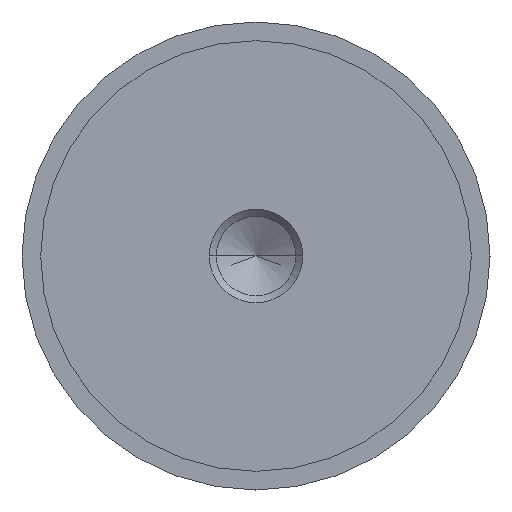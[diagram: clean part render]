
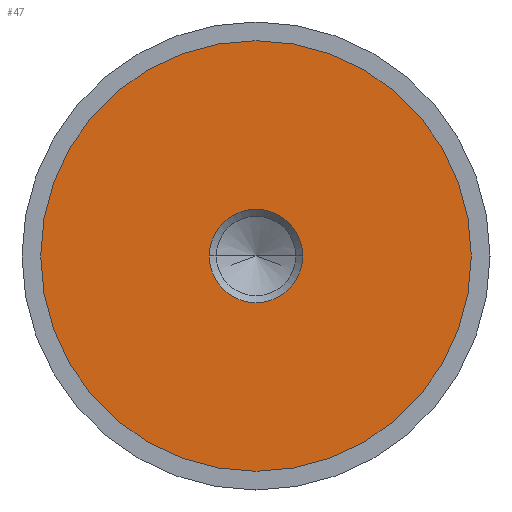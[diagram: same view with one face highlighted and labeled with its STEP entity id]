
A CAD part, left-side view. The second image highlights one B-rep face of the part: STEP entity #47.
In plain terms, the highlighted planar face has unit normal (-1, 0, 0).
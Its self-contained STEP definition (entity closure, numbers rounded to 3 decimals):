
#29 = CIRCLE ( 'NONE', #90, 4.99 ) ;
#30 = FACE_BOUND ( 'NONE', #659, .T. ) ;
#31 = EDGE_CURVE ( 'NONE', #606, #143, #29, .T. ) ;
#47 = ADVANCED_FACE ( 'NONE', ( #30, #581 ), #527, .F. ) ;
#82 = AXIS2_PLACEMENT_3D ( 'NONE', #329, #572, #452 ) ;
#83 = CARTESIAN_POINT ( 'NONE',  ( -9.99, 0., 0. ) ) ;
#90 = AXIS2_PLACEMENT_3D ( 'NONE', #83, #398, #283 ) ;
#97 = CIRCLE ( 'NONE', #220, 23. ) ;
#135 = CARTESIAN_POINT ( 'NONE',  ( -9.99, 0., 0. ) ) ;
#136 = CIRCLE ( 'NONE', #522, 23. ) ;
#143 = VERTEX_POINT ( 'NONE', #303 ) ;
#156 = DIRECTION ( 'NONE',  ( 1., 0., 0. ) ) ;
#184 = ORIENTED_EDGE ( 'NONE', *, *, #565, .T. ) ;
#202 = CARTESIAN_POINT ( 'NONE',  ( -9.99, 0., -23. ) ) ;
#220 = AXIS2_PLACEMENT_3D ( 'NONE', #135, #333, #326 ) ;
#225 = CARTESIAN_POINT ( 'NONE',  ( -9.99, 23., 0. ) ) ;
#229 = EDGE_CURVE ( 'NONE', #707, #241, #97, .T. ) ;
#241 = VERTEX_POINT ( 'NONE', #202 ) ;
#247 = DIRECTION ( 'NONE',  ( -1., 0., 0. ) ) ;
#283 = DIRECTION ( 'NONE',  ( 0., 0., -1. ) ) ;
#303 = CARTESIAN_POINT ( 'NONE',  ( -9.99, 4.99, 0. ) ) ;
#314 = CARTESIAN_POINT ( 'NONE',  ( -9.99, 0., 0. ) ) ;
#326 = DIRECTION ( 'NONE',  ( 0., 0., 1. ) ) ;
#329 = CARTESIAN_POINT ( 'NONE',  ( -9.99, 0., 0. ) ) ;
#333 = DIRECTION ( 'NONE',  ( -1., 0., 0. ) ) ;
#345 = ORIENTED_EDGE ( 'NONE', *, *, #229, .T. ) ;
#395 = CARTESIAN_POINT ( 'NONE',  ( -9.99, 0., 23. ) ) ;
#398 = DIRECTION ( 'NONE',  ( 1., 0., 0. ) ) ;
#419 = EDGE_LOOP ( 'NONE', ( #345, #184 ) ) ;
#452 = DIRECTION ( 'NONE',  ( 0., 0., -1. ) ) ;
#464 = DIRECTION ( 'NONE',  ( 0., 0., -1. ) ) ;
#480 = ORIENTED_EDGE ( 'NONE', *, *, #31, .T. ) ;
#522 = AXIS2_PLACEMENT_3D ( 'NONE', #314, #247, #780 ) ;
#527 = PLANE ( 'NONE',  #776 ) ;
#565 = EDGE_CURVE ( 'NONE', #241, #707, #136, .T. ) ;
#572 = DIRECTION ( 'NONE',  ( 1., 0., 0. ) ) ;
#581 = FACE_OUTER_BOUND ( 'NONE', #419, .T. ) ;
#606 = VERTEX_POINT ( 'NONE', #675 ) ;
#659 = EDGE_LOOP ( 'NONE', ( #480, #738 ) ) ;
#675 = CARTESIAN_POINT ( 'NONE',  ( -9.99, -4.99, 0. ) ) ;
#699 = EDGE_CURVE ( 'NONE', #143, #606, #753, .T. ) ;
#707 = VERTEX_POINT ( 'NONE', #395 ) ;
#738 = ORIENTED_EDGE ( 'NONE', *, *, #699, .T. ) ;
#753 = CIRCLE ( 'NONE', #82, 4.99 ) ;
#776 = AXIS2_PLACEMENT_3D ( 'NONE', #225, #156, #464 ) ;
#780 = DIRECTION ( 'NONE',  ( 0., 0., 1. ) ) ;
